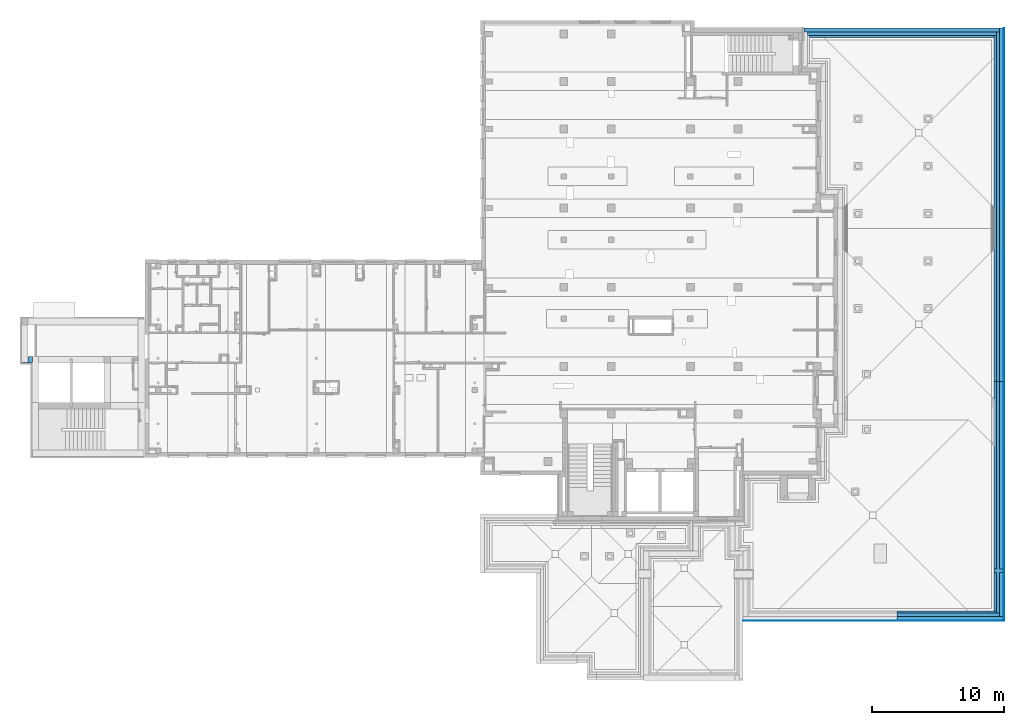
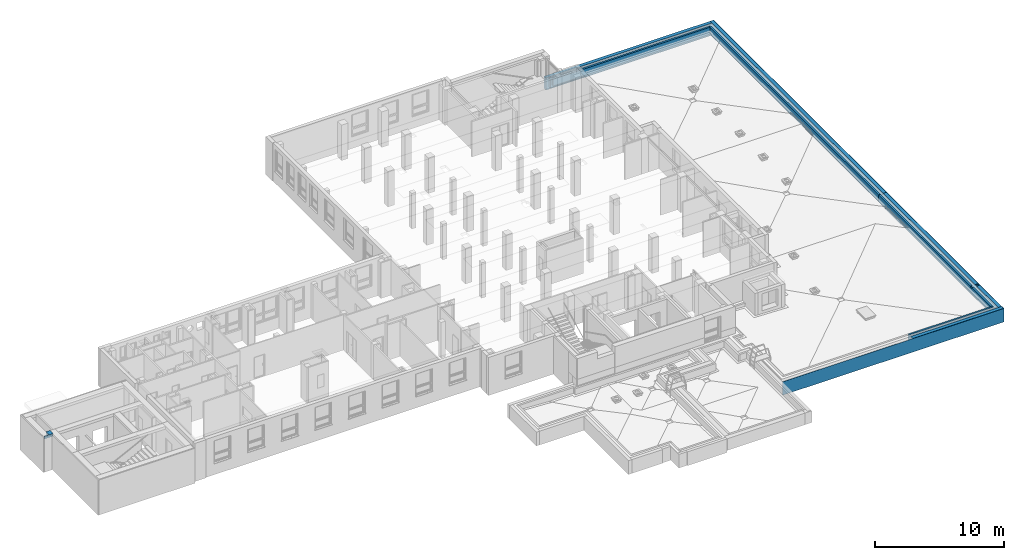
# One storey, part 31 of 50: 7 walls.
"""IFC4 building model written with IfcOpenShell, lengths in metres."""

from ifc_helpers import new_model, entity, si_unit, converted_unit, derived_unit, frame, frame_2d, origin, origin_with_axes, place, context, subcontext, project, spatial, polyline, rectangle, outline, extrude, clip, bounded_halfspace, material, layer, layer_set, layer_usage, element, save


model = new_model("IFC4")

# Units and contexts
model_context = context("Model", 3, precision=1e-05, world=origin())
body_context = subcontext(model_context, "Body", "Model", "MODEL_VIEW")
ifc_project = project(units=[si_unit("LENGTHUNIT", "METRE"), si_unit("AREAUNIT", "SQUARE_METRE"), si_unit("VOLUMEUNIT", "CUBIC_METRE"), si_unit("MASSUNIT", "GRAM", prefix="KILO"), converted_unit("PLANEANGLEUNIT", "DEGREE", entity("IfcPlaneAngleMeasure", 0.0174532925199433), si_unit("PLANEANGLEUNIT", "RADIAN"), dimensions=[0, 0, 0, 0, 0, 0, 0]), derived_unit("THERMALTRANSMITTANCEUNIT", [(si_unit("POWERUNIT", "WATT"), 1), (si_unit("THERMODYNAMICTEMPERATUREUNIT", "KELVIN"), -1), (si_unit("LENGTHUNIT", "METRE"), -2)]), derived_unit("VOLUMETRICFLOWRATEUNIT", [(si_unit("LENGTHUNIT", "METRE"), 3), (converted_unit("TIMEUNIT", "hour", entity("IfcTimeMeasure", 3600.0), si_unit("TIMEUNIT", "SECOND"), dimensions=[0, 0, 1, 0, 0, 0, 0]), -1), (si_unit("LENGTHUNIT", "METRE"), -1)])], contexts=[model_context])

# Site, building, storey
site_placement = place(None, origin())
site = spatial("IfcSite", under=ifc_project, at=site_placement, Name="3. ASŘ", CompositionType="ELEMENT")
building_placement = place(site_placement, origin())
building = spatial("IfcBuilding", under=site, at=building_placement, Name="Pavilon C", CompositionType="ELEMENT")
storey_placement = place(building_placement, frame((0.0, 0.0, 3.6)))
storey = spatial("IfcBuildingStorey", under=building, at=storey_placement, Name="Půdorys 2.NP", CompositionType="ELEMENT", Elevation=3.6)

# Walls
ifc_material_1 = material(Name="ZELEZOBETONOVÁ KCE")
ifc_layer_1 = layer(ifc_material_1, 0.45)
ifc_material_2 = material(Name="LIGNOPOR")
ifc_layer_2 = layer(ifc_material_2, 0.05)
ifc_layer_set_1 = layer_set([ifc_layer_1, ifc_layer_2])
ifc_layer_usage_1 = layer_usage(ifc_layer_set_1, "AXIS2", "POSITIVE", 0.0)
wall_1_placement = place(storey_placement, frame((-9.52499999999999, 7.95, 2.83), z_axis=(0.0, 0.0, 1.0), x_axis=(-1.0, 0.0, 0.0)))
element("IfcWall", 1, at=wall_1_placement, inside=storey, material=ifc_layer_usage_1, context=body_context, shape_type="SweptSolid", body=[
    extrude(outline(polyline([(-0.799999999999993, -0.5), (-0.45, -0.5), (-0.45, -0.05), (0.0, -0.05), (0.0, 0.0), (-0.75, 0.0), (-0.75, -0.05), (-0.799999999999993, -0.05), (-0.799999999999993, -0.5)])), frame((0.799999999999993, 0.5, 0.0), z_axis=(0.0, 0.0, 1.0), x_axis=(1.0, 0.0, 0.0)), (0.0, 0.0, 1.0), 0.25),
])
ifc_material_3 = material(Name="OBKLAD SKLEM")
ifc_layer_3 = layer(ifc_material_3, 0.01)
ifc_layer_set_2 = layer_set([ifc_layer_3])
ifc_layer_usage_2 = layer_usage(ifc_layer_set_2, "AXIS2", "POSITIVE", 0.0)
wall_2_placement = place(storey_placement, frame((64.12, 32.85, -0.32), z_axis=(0.0, 0.0, 1.0), x_axis=(0.0, -1.0, 0.0)))
element("IfcWall", 2, at=wall_2_placement, inside=storey, material=ifc_layer_usage_2, Name="OBKLAD SKLEM", context=body_context, shape_type="SweptSolid", body=[
    extrude(rectangle(XDim=44.93, YDim=0.01, at=frame_2d((22.465, 0.005), x_axis=(1.0, 0.0))), origin_with_axes(), (0.0, 0.0, 1.0), 1.27),
])
ifc_material_4 = material(Name="OBKLAD SKLEM")
ifc_layer_4 = layer(ifc_material_4, 0.01)
ifc_layer_set_3 = layer_set([ifc_layer_4])
ifc_layer_usage_3 = layer_usage(ifc_layer_set_3, "AXIS2", "POSITIVE", 0.0)
wall_3_placement = place(storey_placement, frame((64.12, -12.07, -0.32), z_axis=(0.0, 0.0, 1.0), x_axis=(-1.0, 0.0, 0.0)))
element("IfcWall", 3, at=wall_3_placement, inside=storey, material=ifc_layer_usage_3, Name="OBKLAD SKLEM", context=body_context, shape_type="SweptSolid", body=[
    extrude(rectangle(XDim=19.77, YDim=0.01, at=frame_2d((9.88499999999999, 0.005), x_axis=(1.0, 0.0))), origin_with_axes(), (0.0, 0.0, 1.0), 1.27),
])
ifc_material_5 = material(Name="MINERÁLNÍ VATA")
ifc_layer_5 = layer(ifc_material_5, 0.3)
ifc_material_6 = material(Name="ZELEZOBETONOVÁ KCE")
ifc_layer_6 = layer(ifc_material_6, 0.25)
ifc_material_7 = material(Name="MINERÁLNÍ VATA")
ifc_layer_7 = layer(ifc_material_7, 0.16)
ifc_layer_set_4 = layer_set([ifc_layer_5, ifc_layer_6, ifc_layer_7])
ifc_layer_usage_4 = layer_usage(ifc_layer_set_4, "AXIS2", "POSITIVE", -0.3)
wall_4_placement = place(storey_placement, frame((64.1, 6.04999999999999, -0.2), z_axis=(0.0, 0.0, 1.0), x_axis=(2.71490955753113e-16, 1.0, 0.0)))
element("IfcWall", 4, at=wall_4_placement, inside=storey, material=ifc_layer_usage_4, Name="MINERÁLNÍ VATA", context=body_context, shape_type="Clipping", body=[
    clip(clip(clip(extrude(outline(polyline([(1.9275857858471e-16, -0.71), (26.8, -0.71), (26.8, -0.41), (26.5, -0.41), (26.5, -0.16), (26.25, -0.16), (26.25, -1.49320025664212e-16), (0.0, 0.0), (1.9275857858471e-16, -0.71)])), frame((-1.9275857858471e-16, 0.71, 0.0), z_axis=(0.0, 0.0, 1.0), x_axis=(1.0, 0.0, 0.0)), (0.0, 0.0, 1.0), 1.15), bounded_halfspace(frame((13.25, 0.424999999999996, 0.25), z_axis=(0.0, 0.0, 1.0), x_axis=(2.71490955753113e-16, -1.0, 0.0)), True, origin_with_axes(), polyline([(-1.49320025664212e-16, 0.55), (-8.14472867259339e-17, 0.3), (26.5, 0.3), (26.5, 0.55), (-1.49320025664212e-16, 0.55)]))), bounded_halfspace(frame((13.125, 0.629999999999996, 0.51), z_axis=(0.0, 0.0, 1.0), x_axis=(2.71490955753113e-16, -1.0, 0.0)), True, origin_with_axes(), polyline([(-1.9275857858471e-16, 0.71), (-1.49320025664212e-16, 0.55), (26.25, 0.55), (26.25, 0.71), (-1.9275857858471e-16, 0.71)]))), bounded_halfspace(frame((15.85, 0.449999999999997, 1.05), z_axis=(0.0, 0.0, -1.0), x_axis=(1.0, -3.07348251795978e-18, 0.0)), True, origin_with_axes(), polyline([(-8.14472867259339e-17, 0.3), (26.5, 0.3), (26.5, 0.55), (26.25, 0.55), (-1.49320025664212e-16, 0.55), (-8.14472867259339e-17, 0.3)]))),
])
ifc_material_8 = material(Name="MINERÁLNÍ VATA")
ifc_layer_8 = layer(ifc_material_8, 0.3)
ifc_material_9 = material(Name="ZELEZOBETONOVÁ KCE")
ifc_layer_9 = layer(ifc_material_9, 0.25)
ifc_material_10 = material(Name="MINERÁLNÍ VATA")
ifc_layer_10 = layer(ifc_material_10, 0.16)
ifc_layer_set_5 = layer_set([ifc_layer_8, ifc_layer_9, ifc_layer_10])
ifc_layer_usage_5 = layer_usage(ifc_layer_set_5, "AXIS2", "POSITIVE", -0.3)
wall_5_placement = place(storey_placement, frame((63.8, 32.85, -0.2), z_axis=(0.0, 0.0, 1.0), x_axis=(-1.0, 0.0, 0.0)))
element("IfcWall", 5, at=wall_5_placement, inside=storey, material=ifc_layer_usage_5, Name="MINERÁLNÍ VATA", context=body_context, shape_type="Clipping", body=[
    clip(clip(clip(extrude(outline(polyline([(-14.82, -0.71), (0.0, -0.71), (0.0, -0.41), (-0.25, -0.41), (-0.25, -0.16), (-0.41, -0.16), (-0.41, 0.0), (-14.41, 0.0), (-14.41, -0.16), (-14.57, -0.16), (-14.57, -0.41), (-14.82, -0.41), (-14.82, -0.71)])), frame((14.82, 0.71, 0.0), z_axis=(0.0, 0.0, 1.0), x_axis=(1.0, 0.0, 0.0)), (0.0, 0.0, 1.0), 1.15), bounded_halfspace(frame((7.41, 0.425000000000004, 0.25), z_axis=(0.0, 0.0, 1.0), x_axis=(0.0, -1.0, 0.0)), True, origin_with_axes(), polyline([(0.25, 0.550000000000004), (0.25, 0.300000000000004), (14.57, 0.300000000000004), (14.57, 0.550000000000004), (0.25, 0.550000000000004)]))), bounded_halfspace(frame((7.41, 0.630000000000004, 0.51), z_axis=(0.0, 0.0, 1.0), x_axis=(0.0, -1.0, 0.0)), True, origin_with_axes(), polyline([(0.41, 0.710000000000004), (0.41, 0.550000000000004), (14.41, 0.550000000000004), (14.41, 0.710000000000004), (0.41, 0.710000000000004)]))), bounded_halfspace(frame((7.41, 0.466666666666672, 1.05), z_axis=(0.0, 0.0, -1.0), x_axis=(1.0, 0.0, 0.0)), True, origin_with_axes(), polyline([(0.25, 0.300000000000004), (14.57, 0.300000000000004), (14.57, 0.550000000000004), (14.41, 0.550000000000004), (0.41, 0.550000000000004), (0.25, 0.550000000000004), (0.25, 0.300000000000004)]))),
])
ifc_material_11 = material(Name="MINERÁLNÍ VATA")
ifc_layer_11 = layer(ifc_material_11, 0.3)
ifc_material_12 = material(Name="ZELEZOBETONOVÁ KCE")
ifc_layer_12 = layer(ifc_material_12, 0.25)
ifc_material_13 = material(Name="MINERÁLNÍ VATA")
ifc_layer_13 = layer(ifc_material_13, 0.16)
ifc_layer_set_6 = layer_set([ifc_layer_11, ifc_layer_12, ifc_layer_13])
ifc_layer_usage_6 = layer_usage(ifc_layer_set_6, "AXIS2", "POSITIVE", -0.3)
wall_6_placement = place(storey_placement, frame((56.0000000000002, -12.05, -0.32)))
element("IfcWall", 6, at=wall_6_placement, inside=storey, material=ifc_layer_usage_6, Name="MINERÁLNÍ VATA", context=body_context, shape_type="Clipping", body=[
    clip(clip(clip(extrude(outline(polyline([(0.0, 0.0), (8.09999999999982, 0.0), (8.09999999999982, 0.3), (7.79999999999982, 0.3), (7.79999999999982, 0.55), (7.54999999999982, 0.55), (7.54999999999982, 0.71), (0.0, 0.71), (0.0, 0.0)])), origin_with_axes(), (0.0, 0.0, 1.0), 1.27), bounded_halfspace(frame((3.89999999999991, 0.425, 0.37), z_axis=(0.0, 0.0, 1.0), x_axis=(-2.91038304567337e-14, -1.0, 0.0)), True, origin_with_axes(), polyline([(7.27595761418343e-15, 0.55), (0.0, 0.3), (7.79999999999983, 0.3), (7.79999999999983, 0.55), (7.27595761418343e-15, 0.55)]))), bounded_halfspace(frame((3.77499999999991, 0.63, 0.63), z_axis=(0.0, 0.0, 1.0), x_axis=(4.54747350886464e-14, -1.0, 0.0)), True, origin_with_axes(), polyline([(0.0, 0.71), (7.27595761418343e-15, 0.55), (7.54999999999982, 0.55), (7.54999999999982, 0.71), (0.0, 0.71)]))), bounded_halfspace(frame((4.6299999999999, 0.45, 1.17), z_axis=(0.0, 0.0, -1.0), x_axis=(1.0, 0.0, 0.0)), True, origin_with_axes(), polyline([(0.0, 0.3), (7.79999999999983, 0.3), (7.79999999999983, 0.55), (7.54999999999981, 0.55), (7.27595761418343e-15, 0.55), (0.0, 0.3)]))),
])
ifc_material_14 = material(Name="MINERÁLNÍ VATA")
ifc_layer_14 = layer(ifc_material_14, 0.3)
ifc_material_15 = material(Name="ZELEZOBETONOVÁ KCE")
ifc_layer_15 = layer(ifc_material_15, 0.25)
ifc_material_16 = material(Name="MINERÁLNÍ VATA")
ifc_layer_16 = layer(ifc_material_16, 0.16)
ifc_layer_set_7 = layer_set([ifc_layer_14, ifc_layer_15, ifc_layer_16])
ifc_layer_usage_7 = layer_usage(ifc_layer_set_7, "AXIS2", "POSITIVE", -0.3)
wall_7_placement = place(storey_placement, frame((64.1, -11.75, -0.32), z_axis=(0.0, 0.0, 1.0), x_axis=(0.0, 1.0, 0.0)))
element("IfcWall", 7, at=wall_7_placement, inside=storey, material=ifc_layer_usage_7, Name="MINERÁLNÍ VATA", context=body_context, shape_type="Clipping", body=[
    clip(clip(clip(extrude(outline(polyline([(0.41, 0.0), (0.41, -0.16), (0.25, -0.16), (0.25, -0.41), (0.0, -0.41), (0.0, -0.71), (17.8, -0.71), (17.8, 0.0), (0.41, 0.0)])), frame((0.0, 0.71, 0.0), z_axis=(0.0, 0.0, 1.0), x_axis=(1.0, 0.0, 0.0)), (0.0, 0.0, 1.0), 1.27), bounded_halfspace(frame((9.025, 0.425, 0.37), z_axis=(0.0, 0.0, 1.0), x_axis=(0.0, -1.0, 0.0)), True, origin_with_axes(), polyline([(0.25, 0.55), (0.25, 0.3), (17.8, 0.3), (17.8, 0.55), (0.25, 0.55)]))), bounded_halfspace(frame((9.105, 0.63, 0.63), z_axis=(0.0, 0.0, 1.0), x_axis=(0.0, -1.0, 0.0)), True, origin_with_axes(), polyline([(0.41, 0.71), (0.41, 0.55), (17.8, 0.55), (17.8, 0.71), (0.41, 0.71)]))), bounded_halfspace(frame((4.93735199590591, 0.413076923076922, 1.17), z_axis=(0.0, 0.0, -1.0), x_axis=(0.0, -1.0, 0.0)), True, origin_with_axes(), polyline([(3.3344469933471, 0.3), (3.3344469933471, 0.0), (3.5844469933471, 0.0), (3.5844469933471, 0.3), (17.8, 0.3), (17.8, 0.55), (3.5844469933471, 0.55), (3.5844469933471, 0.71), (3.3344469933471, 0.71), (3.3344469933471, 0.55), (0.41, 0.55), (0.25, 0.55), (0.25, 0.3), (3.3344469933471, 0.3)]))),
])

save(model, "model.ifc")
